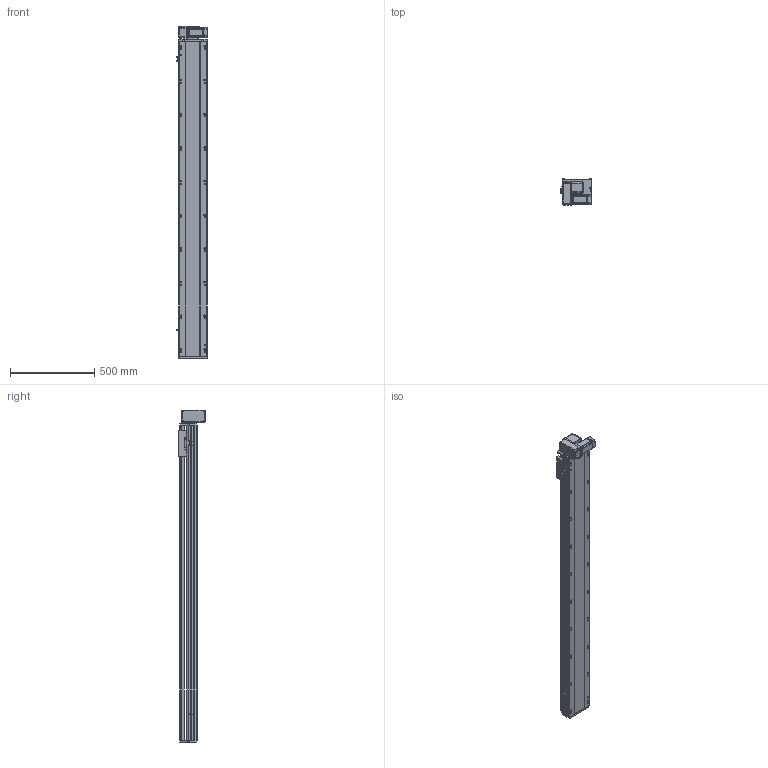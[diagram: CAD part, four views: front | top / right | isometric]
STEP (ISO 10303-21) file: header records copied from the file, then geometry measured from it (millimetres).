
FILE_DESCRIPTION (( 'STEP AP214' ), '1' );
FILE_NAME ('RTB17S-XX-1600-LM-M40-C4.STEP', '2025-12-11T06:29:57', ( '' ), ( '' ), 'SwSTEP 2.0', 'SolidWorks 2018', '' );
FILE_SCHEMA (( 'AUTOMOTIVE_DESIGN' ));
Length unit declared in the file: millimetre
Products named in the file (14): RTB17-R-011菁釱^RTB17S-XX-XX-LM-M40-C4; RTB14-L-005P--轴承塑胶压盖^RTB17S-LM-皮带座装配-400W_RTB17S-XX-XX-LM-M40-C4; RTB17S-XX-1600-LM-M40-C4; OMRON EE-SX672 传感器^RTB17S-XX-XX-LM-M40-C4; RTB14-L-008-M20--萇儂啣^RTB17S-LM-々湍釱蚾饜-400W_RTB17S-XX-XX-LM-M40-C4; RTB17S-L-007奻裔^RTB17S-XX-XX-LM-M40-C4; RTB14-L-018P^RTB17S-LM-々湍釱蚾饜-400W_RTB17S-XX-XX-LM-M40-C4; RMP17S-L-014-T20--々湍釱^RTB17S-LM-々湍釱蚾饜-400W_RTB17S-XX-XX-LM-M40-C4; 400W侜督萇儂^RTB17S-XX-XX-LM-M40-C4; RTB17S-L-004佪裝蹟譫蟀諉釱^RTB17S-XX-XX-LM-M40-C4; RTB17S-L-001耜醱啣^RTB17S-XX-XX-LM-M40-C4; RTB17S-LM-々湍釱蚾饜-400W^RTB17S-XX-XX-LM-M40-C4; RTB14-L-017P^RTB17S-LM-々湍釱蚾饜-400W_RTB17S-XX-XX-LM-M40-C4; RTH13-BL-012覜茼え俋离^RTB17S-XX-XX-LM-M40-C4
Assembly tree (16 placements, depth 3):
  RTB17S-XX-1600-LM-M40-C4
    RTB17-R-011菁釱^RTB17S-XX-XX-LM-M40-C4
    RTB17S-L-007奻裔^RTB17S-XX-XX-LM-M40-C4
    OMRON EE-SX672 传感器^RTB17S-XX-XX-LM-M40-C4  x3
    RTH13-BL-012覜茼え俋离^RTB17S-XX-XX-LM-M40-C4
    RTB17S-L-001耜醱啣^RTB17S-XX-XX-LM-M40-C4
    400W侜督萇儂^RTB17S-XX-XX-LM-M40-C4
    RTB17S-L-004佪裝蹟譫蟀諉釱^RTB17S-XX-XX-LM-M40-C4
    RTB17S-LM-々湍釱蚾饜-400W^RTB17S-XX-XX-LM-M40-C4
      RMP17S-L-014-T20--々湍釱^RTB17S-LM-々湍釱蚾饜-400W_RTB17S-XX-XX-LM-M40-C4
      RTB14-L-005P--轴承塑胶压盖^RTB17S-LM-皮带座装配-400W_RTB17S-XX-XX-LM-M40-C4
      RTB14-L-008-M20--萇儂啣^RTB17S-LM-々湍釱蚾饜-400W_RTB17S-XX-XX-LM-M40-C4
      RTB14-L-017P^RTB17S-LM-々湍釱蚾饜-400W_RTB17S-XX-XX-LM-M40-C4  x2
      RTB14-L-018P^RTB17S-LM-々湍釱蚾饜-400W_RTB17S-XX-XX-LM-M40-C4
Bounding box: 186 x 156.5 x 1972.5 mm (x, y, z)
Volume: 17269930.2 mm3; surface area: 2030740.4 mm2
Topology: 15 solids, 15 shells, 2253 faces, 6249 edges, 4077 vertices
Faces by surface type: plane 1074, cylinder 731, bspline 301, cone 139, torus 8
Entity records: 64937 total; most frequent: CARTESIAN_POINT 18254, ORIENTED_EDGE 9342, DIRECTION 8666, EDGE_CURVE 4671, VERTEX_POINT 3065, AXIS2_PLACEMENT_3D 2995, LINE 2676, VECTOR 2676
